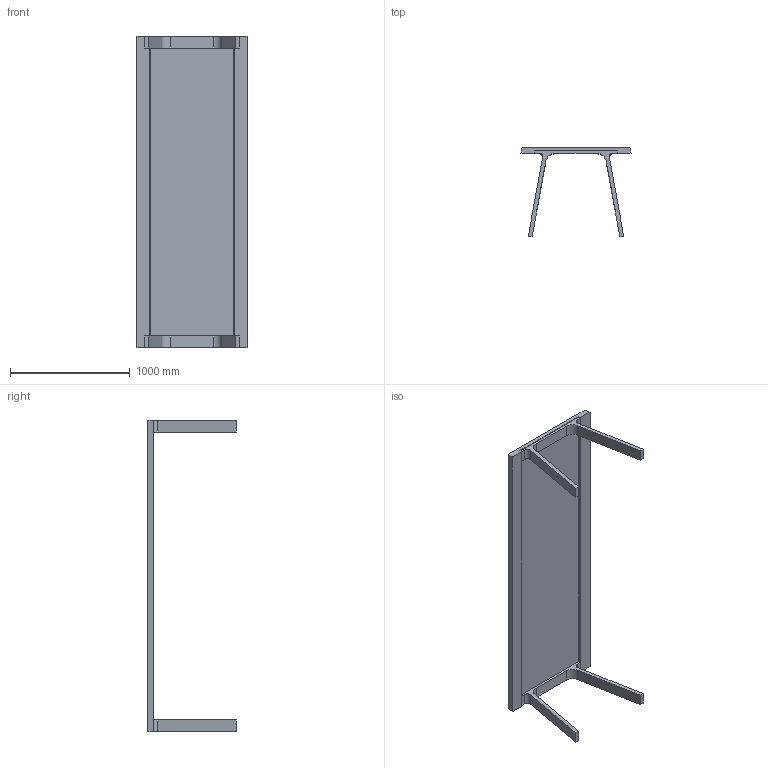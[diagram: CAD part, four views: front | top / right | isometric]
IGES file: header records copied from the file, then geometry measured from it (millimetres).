
Start section: SolidWorks IGES file using analytic representation for surfaces
Global section: file name: G:\Product Info\Doble\3D\solidworks\Doble 260x90x74.IGS; native system: SolidWorks 2008; preprocessor: SolidWorks 2008; author: remko; date: 080826.135705; units: millimetre
Bounding box: 917.63 x 740 x 2600 mm (x, y, z)
Surface area: 6042330.9 mm2 (no closed solid volume)
Topology: 0 solids, 0 shells, 46 faces, 356 edges, 356 vertices
Faces by surface type: bspline 36, revolution 10
